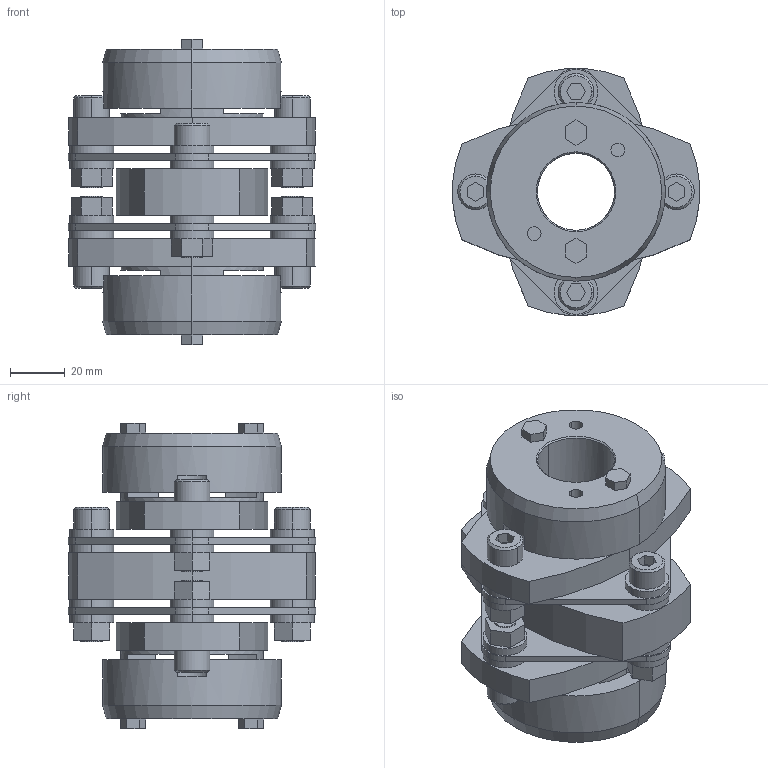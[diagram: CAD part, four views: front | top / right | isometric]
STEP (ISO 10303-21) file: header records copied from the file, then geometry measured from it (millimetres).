
FILE_DESCRIPTION((''),'2;1');
FILE_NAME('LCD-90T7-28×30.stp','2015-11-01T19:31:46',(''),(''),'AutoCAD STEP 2000i','AutoCAD 2000i',', , ');
FILE_SCHEMA(('CONFIG_CONTROL_DESIGN'));
Length unit declared in the file: millimetre
Products named in the file (9): LCD-90T7-30×30; 忣兜1; LC90T7-T030-1; LC90T7-T030; LC90T7-T025-1; LC90T7-T025; LC90T7-T019-1; LC90T7-T019; LCD90-ITA
Assembly tree (8 placements, depth 2):
  LCD-90T7-30×30
    忣兜1
    LC90T7-T030-1
    LC90T7-T030
    LC90T7-T025-1
    LC90T7-T025
    LC90T7-T019-1
    LC90T7-T019
    LCD90-ITA
Bounding box: 90 x 89.94 x 111 mm (x, y, z)
Volume: 280884.8 mm3; surface area: 75654.1 mm2
Topology: 1 solids, 1 shells, 314 faces, 768 edges, 504 vertices
Faces by surface type: plane 166, cylinder 124, cone 24
Entity records: 9555 total; most frequent: DIRECTION 1710, CARTESIAN_POINT 1595, ORIENTED_EDGE 1536, EDGE_CURVE 768, AXIS2_PLACEMENT_3D 619, VERTEX_POINT 504, VECTOR 472, LINE 472
